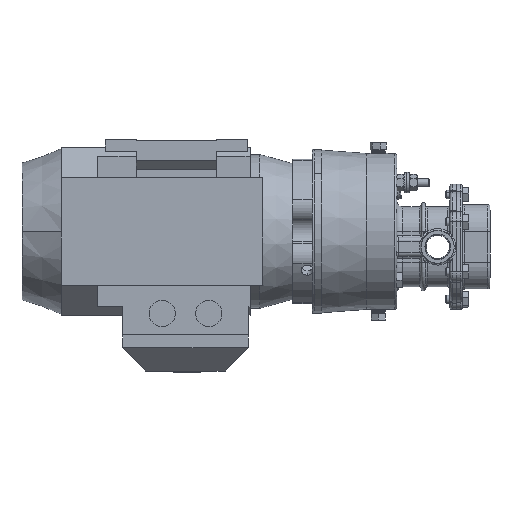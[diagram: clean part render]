
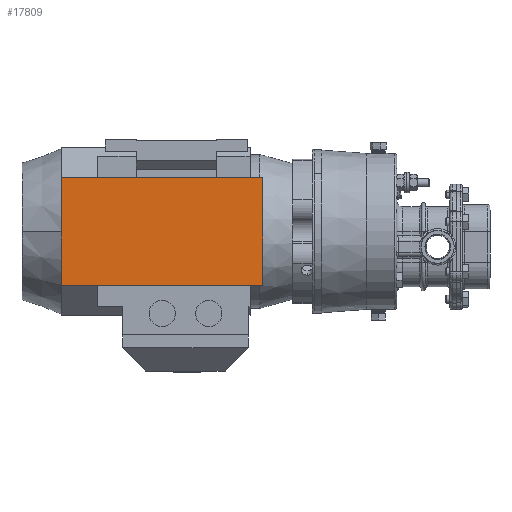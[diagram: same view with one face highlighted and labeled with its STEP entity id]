
A CAD part, left-side view. The second image highlights one B-rep face of the part: STEP entity #17809.
In plain terms, the highlighted planar face has unit normal (-1, 0, 0).
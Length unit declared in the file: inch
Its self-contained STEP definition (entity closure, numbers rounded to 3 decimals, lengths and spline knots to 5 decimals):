
#878 = VERTEX_POINT ( 'NONE', #12770 ) ;
#2829 = DIRECTION ( 'NONE',  ( 0., 0., -1. ) ) ;
#3006 = CARTESIAN_POINT ( 'NONE',  ( -2.55906, 12.02824, -1.17561 ) ) ;
#4081 = LINE ( 'NONE', #27056, #65140 ) ;
#4875 = CARTESIAN_POINT ( 'NONE',  ( -2.55906, 10.92588, 2.11361 ) ) ;
#5066 = CARTESIAN_POINT ( 'NONE',  ( -2.55906, 12.02824, -1.17561 ) ) ;
#5744 = DIRECTION ( 'NONE',  ( 0., -1., 0. ) ) ;
#6505 = VERTEX_POINT ( 'NONE', #3006 ) ;
#8362 = CARTESIAN_POINT ( 'NONE',  ( -2.55906, 5.88651, -1.17561 ) ) ;
#8890 = CARTESIAN_POINT ( 'NONE',  ( -2.55906, 12.02824, 2.11361 ) ) ;
#9274 = LINE ( 'NONE', #8890, #63334 ) ;
#10215 = EDGE_CURVE ( 'NONE', #6505, #878, #45311, .T. ) ;
#12426 = EDGE_CURVE ( 'NONE', #33911, #51507, #66347, .T. ) ;
#12770 = CARTESIAN_POINT ( 'NONE',  ( -2.55906, 10.92588, -1.17561 ) ) ;
#13597 = CARTESIAN_POINT ( 'NONE',  ( -2.55906, 5.88651, -1.17561 ) ) ;
#14627 = VECTOR ( 'NONE', #16360, 39.37008 ) ;
#15178 = CARTESIAN_POINT ( 'NONE',  ( -2.55906, 12.02824, 2.11361 ) ) ;
#16360 = DIRECTION ( 'NONE',  ( 0., -1., 0. ) ) ;
#16517 = EDGE_LOOP ( 'NONE', ( #51530, #67913, #73792, #41153, #22227, #23643 ) ) ;
#17809 = ADVANCED_FACE ( 'NONE', ( #28752 ), #33699, .T. ) ;
#18048 = LINE ( 'NONE', #41044, #52093 ) ;
#21582 = LINE ( 'NONE', #72559, #14627 ) ;
#22227 = ORIENTED_EDGE ( 'NONE', *, *, #50547, .T. ) ;
#22333 = DIRECTION ( 'NONE',  ( 0., 1., 0. ) ) ;
#23643 = ORIENTED_EDGE ( 'NONE', *, *, #12426, .T. ) ;
#27056 = CARTESIAN_POINT ( 'NONE',  ( -2.55906, 10.92588, -1.17561 ) ) ;
#28015 = DIRECTION ( 'NONE',  ( -1., 0., 0. ) ) ;
#28752 = FACE_OUTER_BOUND ( 'NONE', #16517, .T. ) ;
#30041 = VECTOR ( 'NONE', #36572, 39.37008 ) ;
#31877 = AXIS2_PLACEMENT_3D ( 'NONE', #5066, #28015, #22333 ) ;
#33699 = PLANE ( 'NONE',  #31877 ) ;
#33911 = VERTEX_POINT ( 'NONE', #8362 ) ;
#36292 = EDGE_CURVE ( 'NONE', #64469, #41046, #21582, .T. ) ;
#36572 = DIRECTION ( 'NONE',  ( 0., 0., 1. ) ) ;
#38251 = EDGE_CURVE ( 'NONE', #41046, #51507, #18048, .T. ) ;
#41044 = CARTESIAN_POINT ( 'NONE',  ( -2.55906, 10.92588, 2.11361 ) ) ;
#41046 = VERTEX_POINT ( 'NONE', #4875 ) ;
#41153 = ORIENTED_EDGE ( 'NONE', *, *, #10215, .T. ) ;
#41334 = CARTESIAN_POINT ( 'NONE',  ( -2.55906, 5.88651, 2.11361 ) ) ;
#45311 = LINE ( 'NONE', #57372, #57391 ) ;
#50547 = EDGE_CURVE ( 'NONE', #878, #33911, #4081, .T. ) ;
#51507 = VERTEX_POINT ( 'NONE', #41334 ) ;
#51530 = ORIENTED_EDGE ( 'NONE', *, *, #38251, .F. ) ;
#52093 = VECTOR ( 'NONE', #64092, 39.37008 ) ;
#54632 = DIRECTION ( 'NONE',  ( 0., -1., 0. ) ) ;
#57372 = CARTESIAN_POINT ( 'NONE',  ( -2.55906, 12.02824, -1.17561 ) ) ;
#57391 = VECTOR ( 'NONE', #5744, 39.37008 ) ;
#63334 = VECTOR ( 'NONE', #2829, 39.37008 ) ;
#64092 = DIRECTION ( 'NONE',  ( 0., -1., 0. ) ) ;
#64469 = VERTEX_POINT ( 'NONE', #15178 ) ;
#64644 = EDGE_CURVE ( 'NONE', #64469, #6505, #9274, .T. ) ;
#65140 = VECTOR ( 'NONE', #54632, 39.37008 ) ;
#66347 = LINE ( 'NONE', #13597, #30041 ) ;
#67913 = ORIENTED_EDGE ( 'NONE', *, *, #36292, .F. ) ;
#72559 = CARTESIAN_POINT ( 'NONE',  ( -2.55906, 12.02824, 2.11361 ) ) ;
#73792 = ORIENTED_EDGE ( 'NONE', *, *, #64644, .T. ) ;
